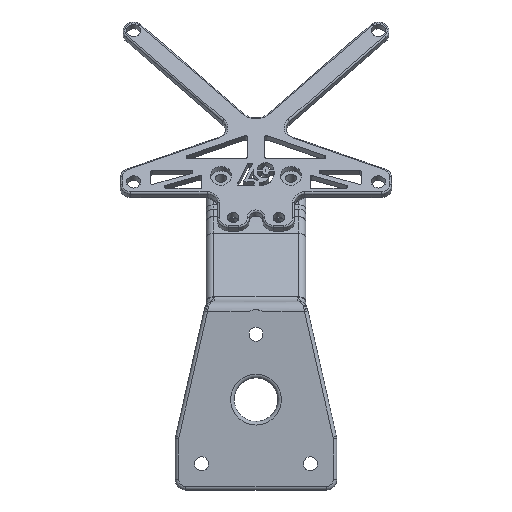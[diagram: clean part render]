
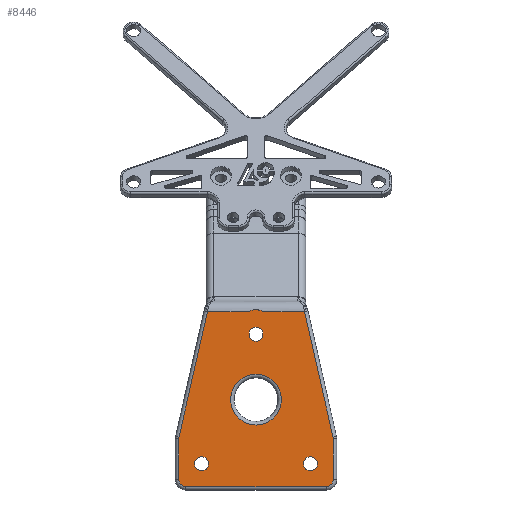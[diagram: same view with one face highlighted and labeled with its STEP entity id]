
A CAD part, front view. The second image highlights one B-rep face of the part: STEP entity #8446.
In plain terms, the highlighted planar face has unit normal (0, -1, 0).
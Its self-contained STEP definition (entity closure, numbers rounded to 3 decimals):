
#300=FACE_BOUND('',#1635,.T.);
#301=FACE_BOUND('',#1636,.T.);
#302=FACE_BOUND('',#1637,.T.);
#303=FACE_BOUND('',#1638,.T.);
#445=PLANE('',#9219);
#1114=FACE_OUTER_BOUND('',#1634,.T.);
#1634=EDGE_LOOP('',(#7362,#7363,#7364,#7365,#7366,#7367,#7368,#7369,#7370,
#7371,#7372,#7373));
#1635=EDGE_LOOP('',(#7374));
#1636=EDGE_LOOP('',(#7375));
#1637=EDGE_LOOP('',(#7376));
#1638=EDGE_LOOP('',(#7377));
#2272=LINE('',#18263,#2871);
#2273=LINE('',#18265,#2872);
#2274=LINE('',#18269,#2873);
#2275=LINE('',#18273,#2874);
#2276=LINE('',#18277,#2875);
#2277=LINE('',#18281,#2876);
#2278=LINE('',#18283,#2877);
#2871=VECTOR('',#11182,10.);
#2872=VECTOR('',#11183,10.);
#2873=VECTOR('',#11186,10.);
#2874=VECTOR('',#11189,10.);
#2875=VECTOR('',#11192,10.);
#2876=VECTOR('',#11195,10.);
#2877=VECTOR('',#11196,10.);
#3195=CIRCLE('',#9217,14.5);
#3197=CIRCLE('',#9220,4.);
#3198=CIRCLE('',#9221,4.);
#3199=CIRCLE('',#9222,4.);
#3200=CIRCLE('',#9223,4.);
#3201=CIRCLE('',#9224,10.);
#3202=CIRCLE('',#9225,4.);
#3203=CIRCLE('',#9226,4.);
#3204=CIRCLE('',#9227,4.);
#3989=VERTEX_POINT('',#18257);
#3990=VERTEX_POINT('',#18261);
#3991=VERTEX_POINT('',#18262);
#3992=VERTEX_POINT('',#18264);
#3993=VERTEX_POINT('',#18266);
#3994=VERTEX_POINT('',#18268);
#3995=VERTEX_POINT('',#18270);
#3996=VERTEX_POINT('',#18272);
#3997=VERTEX_POINT('',#18274);
#3998=VERTEX_POINT('',#18276);
#3999=VERTEX_POINT('',#18278);
#4000=VERTEX_POINT('',#18280);
#4001=VERTEX_POINT('',#18282);
#4002=VERTEX_POINT('',#18285);
#4003=VERTEX_POINT('',#18287);
#4004=VERTEX_POINT('',#18289);
#5165=EDGE_CURVE('',#3989,#3989,#3195,.T.);
#5167=EDGE_CURVE('',#3990,#3991,#2272,.T.);
#5168=EDGE_CURVE('',#3992,#3990,#2273,.T.);
#5169=EDGE_CURVE('',#3993,#3992,#3197,.T.);
#5170=EDGE_CURVE('',#3994,#3993,#2274,.T.);
#5171=EDGE_CURVE('',#3995,#3994,#3198,.T.);
#5172=EDGE_CURVE('',#3996,#3995,#2275,.T.);
#5173=EDGE_CURVE('',#3997,#3996,#3199,.T.);
#5174=EDGE_CURVE('',#3998,#3997,#2276,.T.);
#5175=EDGE_CURVE('',#3999,#3998,#3200,.T.);
#5176=EDGE_CURVE('',#4000,#3999,#2277,.T.);
#5177=EDGE_CURVE('',#4001,#4000,#2278,.T.);
#5178=EDGE_CURVE('',#4001,#3991,#3201,.T.);
#5179=EDGE_CURVE('',#4002,#4002,#3202,.T.);
#5180=EDGE_CURVE('',#4003,#4003,#3203,.T.);
#5181=EDGE_CURVE('',#4004,#4004,#3204,.T.);
#7362=ORIENTED_EDGE('',*,*,#5167,.F.);
#7363=ORIENTED_EDGE('',*,*,#5168,.F.);
#7364=ORIENTED_EDGE('',*,*,#5169,.F.);
#7365=ORIENTED_EDGE('',*,*,#5170,.F.);
#7366=ORIENTED_EDGE('',*,*,#5171,.F.);
#7367=ORIENTED_EDGE('',*,*,#5172,.F.);
#7368=ORIENTED_EDGE('',*,*,#5173,.F.);
#7369=ORIENTED_EDGE('',*,*,#5174,.F.);
#7370=ORIENTED_EDGE('',*,*,#5175,.F.);
#7371=ORIENTED_EDGE('',*,*,#5176,.F.);
#7372=ORIENTED_EDGE('',*,*,#5177,.F.);
#7373=ORIENTED_EDGE('',*,*,#5178,.T.);
#7374=ORIENTED_EDGE('',*,*,#5179,.T.);
#7375=ORIENTED_EDGE('',*,*,#5180,.T.);
#7376=ORIENTED_EDGE('',*,*,#5181,.T.);
#7377=ORIENTED_EDGE('',*,*,#5165,.F.);
#8446=ADVANCED_FACE('',(#1114,#300,#301,#302,#303),#445,.T.);
#9217=AXIS2_PLACEMENT_3D('',#18258,#11176,#11177);
#9219=AXIS2_PLACEMENT_3D('',#18260,#11180,#11181);
#9220=AXIS2_PLACEMENT_3D('',#18267,#11184,#11185);
#9221=AXIS2_PLACEMENT_3D('',#18271,#11187,#11188);
#9222=AXIS2_PLACEMENT_3D('',#18275,#11190,#11191);
#9223=AXIS2_PLACEMENT_3D('',#18279,#11193,#11194);
#9224=AXIS2_PLACEMENT_3D('',#18284,#11197,#11198);
#9225=AXIS2_PLACEMENT_3D('',#18286,#11199,#11200);
#9226=AXIS2_PLACEMENT_3D('',#18288,#11201,#11202);
#9227=AXIS2_PLACEMENT_3D('',#18290,#11203,#11204);
#11176=DIRECTION('center_axis',(0.,-1.,0.));
#11177=DIRECTION('ref_axis',(1.,0.,0.));
#11180=DIRECTION('center_axis',(0.,-1.,0.));
#11181=DIRECTION('ref_axis',(0.,0.,-1.));
#11182=DIRECTION('',(1.,0.,0.));
#11183=DIRECTION('',(0.222,0.,0.975));
#11184=DIRECTION('center_axis',(0.,1.,0.));
#11185=DIRECTION('ref_axis',(-0.994,0.,0.112));
#11186=DIRECTION('',(0.,0.,1.));
#11187=DIRECTION('center_axis',(0.,1.,0.));
#11188=DIRECTION('ref_axis',(-0.707,0.,-0.707));
#11189=DIRECTION('',(-1.,0.,0.));
#11190=DIRECTION('center_axis',(0.,1.,0.));
#11191=DIRECTION('ref_axis',(0.707,0.,-0.707));
#11192=DIRECTION('',(0.,0.,-1.));
#11193=DIRECTION('center_axis',(0.,1.,0.));
#11194=DIRECTION('ref_axis',(0.994,0.,0.112));
#11195=DIRECTION('',(0.222,0.,-0.975));
#11196=DIRECTION('',(1.,0.,0.));
#11197=DIRECTION('center_axis',(0.,-1.,0.));
#11198=DIRECTION('ref_axis',(0.,0.,-1.));
#11199=DIRECTION('center_axis',(0.,1.,0.));
#11200=DIRECTION('ref_axis',(1.,0.,0.));
#11201=DIRECTION('center_axis',(0.,1.,0.));
#11202=DIRECTION('ref_axis',(0.,0.,1.));
#11203=DIRECTION('center_axis',(0.,1.,0.));
#11204=DIRECTION('ref_axis',(0.,0.,-1.));
#18257=CARTESIAN_POINT('',(0.,0.,22.144));
#18258=CARTESIAN_POINT('Origin',(0.,0.,36.644));
#18260=CARTESIAN_POINT('Origin',(0.,0.,0.));
#18261=CARTESIAN_POINT('',(-27.697,0.,87.));
#18262=CARTESIAN_POINT('',(-4.359,0.,87.));
#18263=CARTESIAN_POINT('',(14.192,0.,87.));
#18264=CARTESIAN_POINT('',(-44.025,0.,15.213));
#18265=CARTESIAN_POINT('',(-44.662,0.,12.413));
#18266=CARTESIAN_POINT('',(-44.125,0.,14.326));
#18267=CARTESIAN_POINT('Origin',(-40.125,0.,14.326));
#18268=CARTESIAN_POINT('',(-44.125,0.,-9.));
#18269=CARTESIAN_POINT('',(-44.125,0.,-7.5));
#18270=CARTESIAN_POINT('',(-40.125,0.,-13.));
#18271=CARTESIAN_POINT('Origin',(-40.125,0.,-9.));
#18272=CARTESIAN_POINT('',(40.125,0.,-13.));
#18273=CARTESIAN_POINT('',(-23.063,0.,-13.));
#18274=CARTESIAN_POINT('',(44.125,0.,-9.));
#18275=CARTESIAN_POINT('Origin',(40.125,0.,-9.));
#18276=CARTESIAN_POINT('',(44.125,0.,14.326));
#18277=CARTESIAN_POINT('',(44.125,0.,-7.5));
#18278=CARTESIAN_POINT('',(44.025,0.,15.213));
#18279=CARTESIAN_POINT('Origin',(40.125,0.,14.326));
#18280=CARTESIAN_POINT('',(27.697,0.,87.));
#18281=CARTESIAN_POINT('',(44.662,0.,12.413));
#18282=CARTESIAN_POINT('',(4.359,0.,87.));
#18283=CARTESIAN_POINT('',(14.192,0.,87.));
#18284=CARTESIAN_POINT('Origin',(0.,0.,
78.));
#18285=CARTESIAN_POINT('',(-4.,0.,74.));
#18286=CARTESIAN_POINT('Origin',(0.,0.,74.));
#18287=CARTESIAN_POINT('',(31.125,0.,4.));
#18288=CARTESIAN_POINT('Origin',(31.125,0.,0.));
#18289=CARTESIAN_POINT('',(-31.125,0.,4.));
#18290=CARTESIAN_POINT('Origin',(-31.125,0.,0.));
